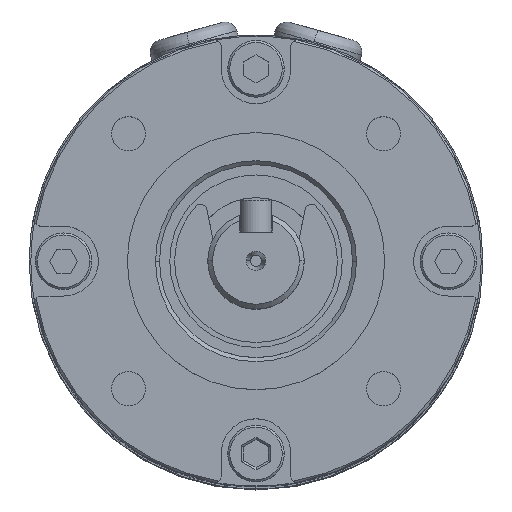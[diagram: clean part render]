
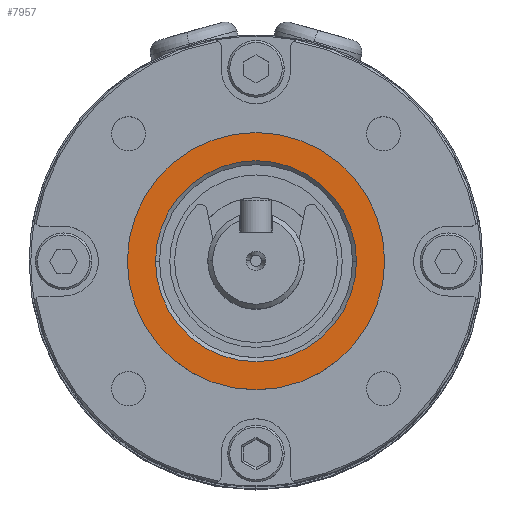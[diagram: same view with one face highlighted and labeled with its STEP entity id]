
A CAD part, top view. The second image highlights one B-rep face of the part: STEP entity #7957.
In plain terms, the highlighted planar face has unit normal (0, 0, 1).
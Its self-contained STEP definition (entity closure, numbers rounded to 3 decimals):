
#216 = AXIS2_PLACEMENT_3D ( 'NONE', #6245, #9194, #3280 ) ;
#1032 = VERTEX_POINT ( 'NONE', #4107 ) ;
#1262 = VERTEX_POINT ( 'NONE', #9005 ) ;
#2022 = EDGE_CURVE ( 'NONE', #1032, #4159, #7395, .T. ) ;
#2182 = ORIENTED_EDGE ( 'NONE', *, *, #2022, .T. ) ;
#2559 = CIRCLE ( 'NONE', #2845, 12.5 ) ;
#2845 = AXIS2_PLACEMENT_3D ( 'NONE', #8902, #5182, #5963 ) ;
#2865 = AXIS2_PLACEMENT_3D ( 'NONE', #2879, #3701, #5986 ) ;
#2879 = CARTESIAN_POINT ( 'NONE',  ( 0., 0., 2. ) ) ;
#3108 = DIRECTION ( 'NONE',  ( 0., 0., 1. ) ) ;
#3155 = ORIENTED_EDGE ( 'NONE', *, *, #4539, .T. ) ;
#3280 = DIRECTION ( 'NONE',  ( -1., 0., 0. ) ) ;
#3507 = CARTESIAN_POINT ( 'NONE',  ( 0., 0., 2. ) ) ;
#3701 = DIRECTION ( 'NONE',  ( 0., 0., 1. ) ) ;
#4107 = CARTESIAN_POINT ( 'NONE',  ( 16., 0., 2. ) ) ;
#4159 = VERTEX_POINT ( 'NONE', #7709 ) ;
#4539 = EDGE_CURVE ( 'NONE', #4159, #1032, #4571, .T. ) ;
#4571 = CIRCLE ( 'NONE', #2865, 16. ) ;
#4780 = ORIENTED_EDGE ( 'NONE', *, *, #8820, .F. ) ;
#5182 = DIRECTION ( 'NONE',  ( 0., 0., 1. ) ) ;
#5674 = PLANE ( 'NONE',  #216 ) ;
#5810 = ORIENTED_EDGE ( 'NONE', *, *, #6670, .F. ) ;
#5827 = CARTESIAN_POINT ( 'NONE',  ( -12.5, 0., 2. ) ) ;
#5845 = DIRECTION ( 'NONE',  ( 1., 0., 0. ) ) ;
#5963 = DIRECTION ( 'NONE',  ( 1., 0., 0. ) ) ;
#5986 = DIRECTION ( 'NONE',  ( 1., 0., 0. ) ) ;
#6012 = AXIS2_PLACEMENT_3D ( 'NONE', #3507, #6376, #5845 ) ;
#6033 = DIRECTION ( 'NONE',  ( 1., 0., 0. ) ) ;
#6245 = CARTESIAN_POINT ( 'NONE',  ( 0., 16., 2. ) ) ;
#6376 = DIRECTION ( 'NONE',  ( 0., 0., 1. ) ) ;
#6565 = VERTEX_POINT ( 'NONE', #5827 ) ;
#6670 = EDGE_CURVE ( 'NONE', #6565, #1262, #2559, .T. ) ;
#7395 = CIRCLE ( 'NONE', #9065, 16. ) ;
#7535 = EDGE_LOOP ( 'NONE', ( #4780, #5810 ) ) ;
#7709 = CARTESIAN_POINT ( 'NONE',  ( -16., 0., 2. ) ) ;
#7797 = FACE_OUTER_BOUND ( 'NONE', #7870, .T. ) ;
#7870 = EDGE_LOOP ( 'NONE', ( #2182, #3155 ) ) ;
#7957 = ADVANCED_FACE ( 'NONE', ( #8533, #7797 ), #5674, .F. ) ;
#8218 = CARTESIAN_POINT ( 'NONE',  ( 0., 0., 2. ) ) ;
#8533 = FACE_BOUND ( 'NONE', #7535, .T. ) ;
#8820 = EDGE_CURVE ( 'NONE', #1262, #6565, #9421, .T. ) ;
#8902 = CARTESIAN_POINT ( 'NONE',  ( 0., 0., 2. ) ) ;
#9005 = CARTESIAN_POINT ( 'NONE',  ( 12.5, 0., 2. ) ) ;
#9065 = AXIS2_PLACEMENT_3D ( 'NONE', #8218, #3108, #6033 ) ;
#9194 = DIRECTION ( 'NONE',  ( 0., 0., -1. ) ) ;
#9421 = CIRCLE ( 'NONE', #6012, 12.5 ) ;
